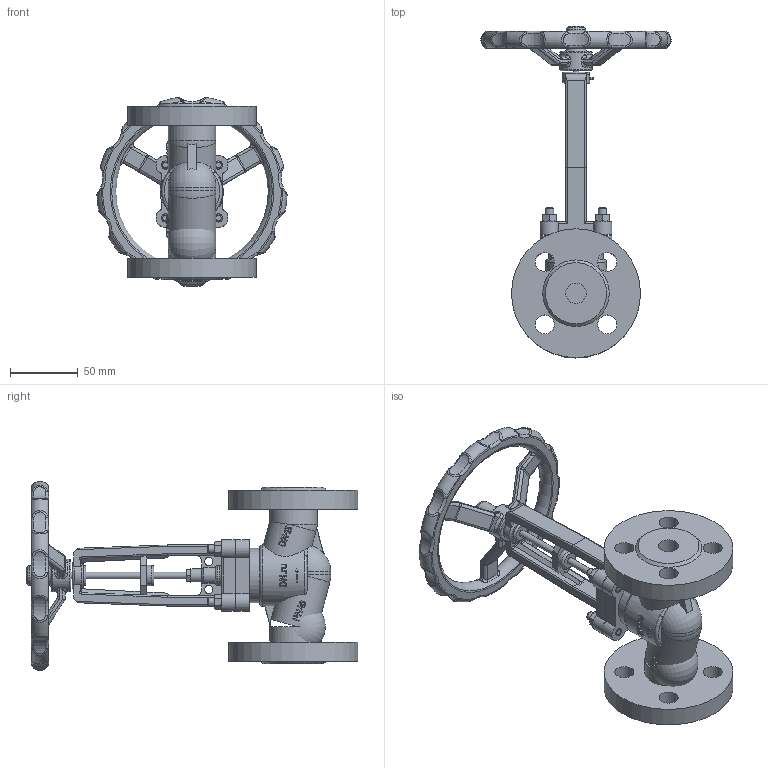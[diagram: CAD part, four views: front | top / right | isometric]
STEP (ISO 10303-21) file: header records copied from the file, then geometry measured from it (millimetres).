
FILE_DESCRIPTION(('STEP AP242'), '1');
FILE_NAME('VSO2130M-F-S 孰囡囗 玎镱痦 DN.ru 捏15 畜40', '2026-04-27T22:01:43', ('DN.ru'), (''), 'C3D Converter', 'C3D Toolkit', '');
FILE_SCHEMA(('AP242_MANAGED_MODEL_BASED_3D_ENGINEERING_MIM_LF { 1 0 10303 442 1 1 4 }'));
Length unit declared in the file: millimetre
Products named in the file (1): VSO2130M-F-S
Bounding box: 140.11 x 244.5 x 139.29 mm (x, y, z)
Volume: 443022.2 mm3; surface area: 109037.8 mm2
Topology: 1 solids, 1 shells, 949 faces, 2373 edges, 1471 vertices
Faces by surface type: plane 292, extrusion 212, cylinder 185, torus 118, sphere 65, bspline 58, cone 19
Full cylindrical faces by diameter (mm): 0.5 x1, 1 x1, 2 x2, 4.5 x1, 5 x2, 6 x14, 7.5 x1, 10 x1, 14 x8, 14.25 x1, 15 x4, 23.75 x1, 35 x2, 40 x1, 45 x1, 95 x2
Entity records: 66645 total; most frequent: CARTESIAN_POINT 38183, ORIENTED_EDGE 4580, DIRECTION 3622, EDGE_CURVE 2290, VERTEX_POINT 1469, AXIS2_PLACEMENT_3D 1317, EDGE_LOOP 1117, FACE_BOUND 994
